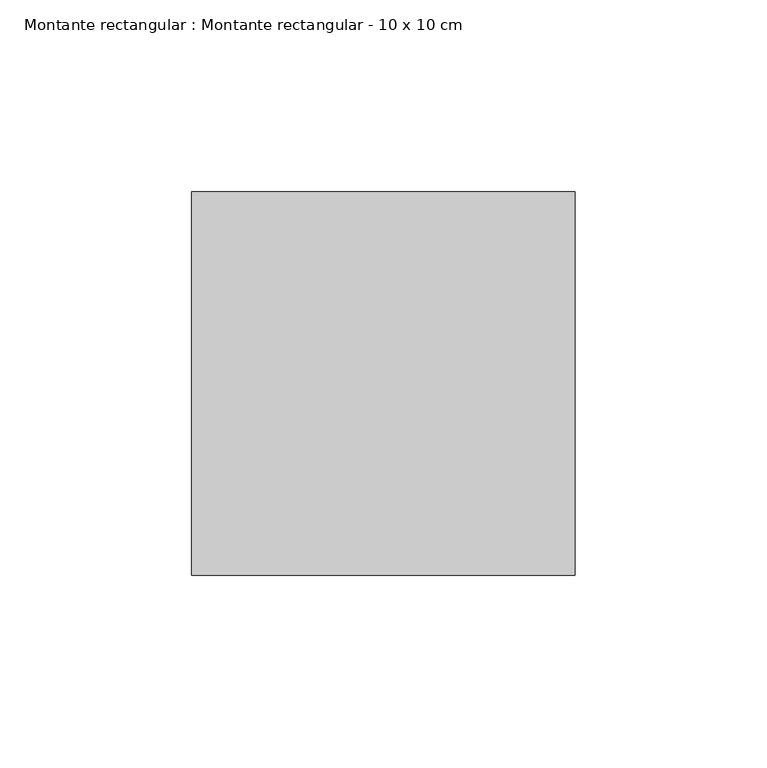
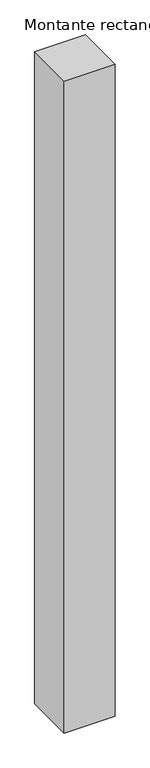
"""IFC4 building model written with IfcOpenShell, lengths in millimetres: member geometry, Montante rectangular : Montante rectangular - 10 x 10 cm."""

from ifc_helpers import new_model, si_unit, frame, origin, place, context, project, spatial, polyline, outline, extrude, source, transform, mapped, element, save


def montante_rectangular_montante_rectangular_10_x_10_cm_acf9aa5a(model_context):
    return source(origin(), model_context, "Body", "SweptSolid", [
        extrude(outline(polyline([(0.0, -50.0), (-100.0, -50.0), (-100.0, 50.0), (0.0, 50.0), (0.0, -50.0)])), frame((0.0, 0.0, -1350.0), z_axis=(0.0, 0.0, 1.0), x_axis=(1.0, 0.0, 0.0)), (0.0, 0.0, 1.0), 1350.0),
    ])


if __name__ == "__main__":
    model = new_model("IFC4")
    model_context = context("Model", 3, world=origin())
    ifc_project = project(units=[si_unit("LENGTHUNIT", "METRE", prefix="MILLI")], contexts=[model_context])
    site = spatial("IfcSite", under=ifc_project)
    building = spatial("IfcBuilding", under=site)
    placement = place(None, origin())
    montante_rectangular_montante_rectangular_10_x_10_cm_shape = montante_rectangular_montante_rectangular_10_x_10_cm_acf9aa5a(model_context)
    element("IfcMember", 1, ObjectType="Montante rectangular : Montante rectangular - 10 x 10 cm", at=placement, inside=building, context=model_context, shape_type="MappedRepresentation", body=[
        mapped(montante_rectangular_montante_rectangular_10_x_10_cm_shape, transform((0.0, 0.0, 0.0), x_axis=(1.0, 0.0, 0.0), y_axis=(0.0, 1.0, 0.0), z_axis=(0.0, 0.0, 1.0))),
    ])
    save(model, "model.ifc")
